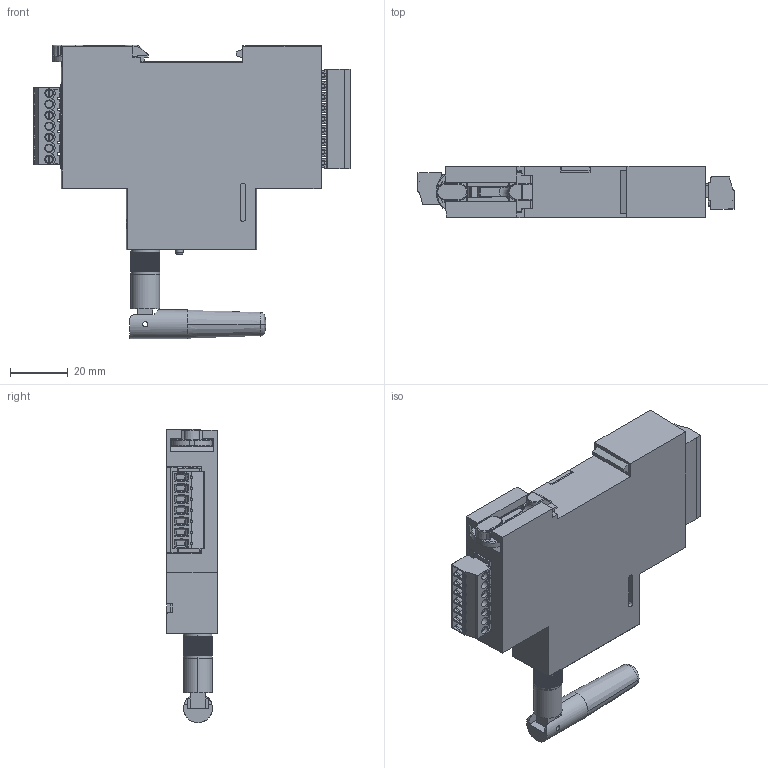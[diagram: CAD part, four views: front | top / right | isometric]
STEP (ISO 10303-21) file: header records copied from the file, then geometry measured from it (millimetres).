
FILE_DESCRIPTION((''),'2;1');
FILE_NAME('LR1RS_PSAC','2020-07-17T15:08:05',('esors'),(''),'CREO PARAMETRIC BY PTC INC, 2018260','CREO PARAMETRIC BY PTC INC, 2018260','');
FILE_SCHEMA(('AUTOMOTIVE_DESIGN { 1 0 10303 214 1 1 1 1 }'));
Products named in the file (1): LR1RS_PSAC
Bounding box: 109.1 x 17.5 x 101.3 mm (x, y, z)
Volume: 40344.2 mm3; surface area: 43730.2 mm2
Topology: 4 solids, 5 shells, 3331 faces, 9341 edges, 6119 vertices
Faces by surface type: plane 2069, cylinder 819, torus 202, cone 201, bspline 26, extrusion 12, sphere 2
Entity records: 123419 total; most frequent: CARTESIAN_POINT 35851, ORIENTED_EDGE 18678, DIRECTION 17009, EDGE_CURVE 9339, VERTEX_POINT 6119, VECTOR 6059, LINE 6047, AXIS2_PLACEMENT_3D 5475
